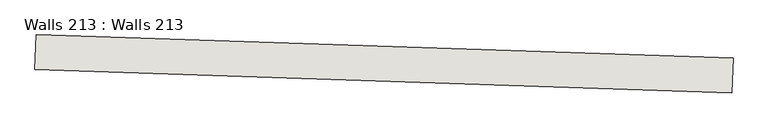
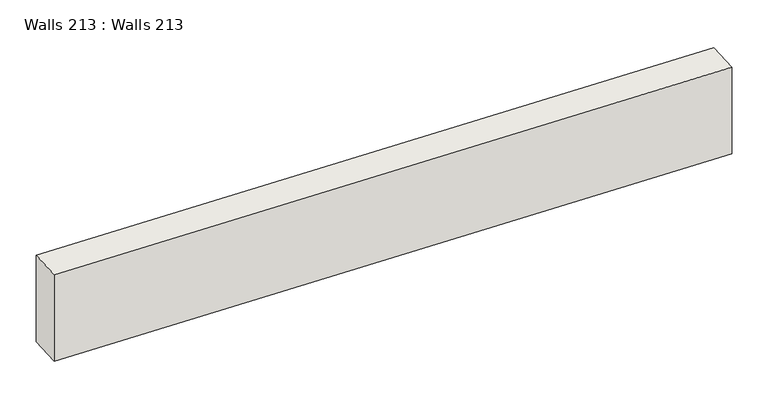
"""IFC4 building model written with IfcOpenShell, lengths in millimetres: wall geometry, Walls 213 : Walls 213."""

from ifc_helpers import new_model, si_unit, frame, origin, place, context, project, spatial, polyline, outline, extrude, source, transform, mapped, element, save


def walls_213_walls_213_c5be8016(model_context):
    return source(origin(), model_context, "Body", "SweptSolid", [
        extrude(outline(polyline([(-798215.6213051, -408315.5130252), (-798229.0738373, -408715.2867479), (-806224.5482917, -408446.2361045), (-806211.0957595, -408046.4623817), (-798215.6213051, -408315.5130252)])), frame((0.0, 0.0, 636860.0), z_axis=(0.0, 0.0, 1.0), x_axis=(1.0, 0.0, 0.0)), (0.0, 0.0, 1.0), 1100.0),
    ])


if __name__ == "__main__":
    model = new_model("IFC4")
    model_context = context("Model", 3, world=origin())
    ifc_project = project(units=[si_unit("LENGTHUNIT", "METRE", prefix="MILLI")], contexts=[model_context])
    site = spatial("IfcSite", under=ifc_project)
    building = spatial("IfcBuilding", under=site)
    placement = place(None, origin())
    walls_213_walls_213_shape = walls_213_walls_213_c5be8016(model_context)
    element("IfcWall", 1, ObjectType="Walls 213 : Walls 213", at=placement, inside=building, context=model_context, shape_type="MappedRepresentation", body=[
        mapped(walls_213_walls_213_shape, transform((0.0, 0.0, 0.0), x_axis=(1.0, 0.0, 0.0), y_axis=(0.0, 1.0, 0.0), z_axis=(0.0, 0.0, 1.0))),
    ])
    save(model, "model.ifc")
